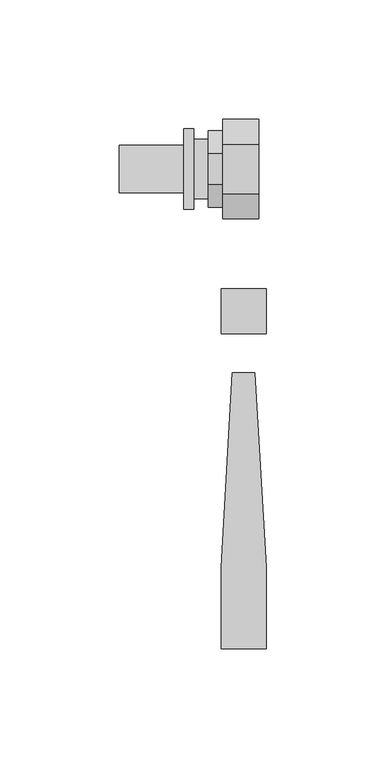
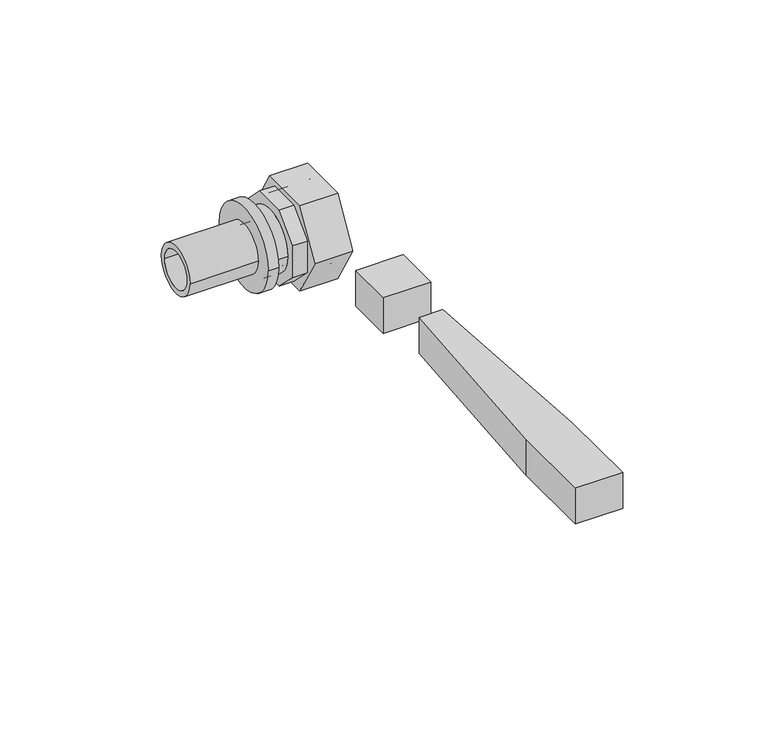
"""IFC4 building model written with IfcOpenShell, lengths in millimetres: pipe fitting geometry, RAUTITAN_LX_C.Coupling : RTI LX/PX C.C DN."""

from ifc_helpers import new_model, si_unit, point, frame, origin, origin_with_axes, origin_2d, place, context, project, spatial, polyline, circle_curve, trimmed, segment, composite_curve, outline, extrude, source, transform, mapped, element, save
from ifc_brep_helpers import plane_surface, cylinder_surface, revolved_surface, advanced_brep


def pipe_fitting_c8a19661(model_context):
    return source(origin(), model_context, "Body", "SolidModel", [
        extrude(outline(polyline([(10.3923048, -18.0), (-10.3923048, -18.0), (-20.7846097, 0.0), (-10.3923048, 18.0), (10.3923048, 18.0), (20.7846097, 0.0), (10.3923048, -18.0)]), holes=[composite_curve([segment(trimmed(circle_curve(origin_2d(), 15.0), [point((-15.0, 0.0))], [point((15.0, 0.0))], True, "CARTESIAN"), True, "CONTINUOUS"), segment(trimmed(circle_curve(origin_2d(), 15.0), [point((15.0, 0.0))], [point((-15.0, 0.0))], True, "CARTESIAN"), True, "CONTINUOUS")], self_intersect=False)]), frame((16.3, 0.0, 0.0), z_axis=(1.0, 0.0, 0.0), x_axis=(0.0, 1.0, 0.0)), (0.0, 0.0, 1.0), 15.0),
        advanced_brep(
        [(16.7, 6.627417, -16.0), (10.2, 6.627417, -16.0), (10.2, 16.0, -6.627417), (16.7, 16.0, -6.627417), (10.2, 16.0, 6.627417), (16.7, 16.0, 6.627417), (10.2, 6.627417, 16.0), (16.7, 6.627417, 16.0), (16.7, -6.627417, 16.0), (10.2, -6.627417, 16.0), (10.2, -16.0, 6.627417), (16.7, -16.0, 6.627417), (10.2, -16.0, -6.627417), (16.7, -16.0, -6.627417), (10.2, -6.627417, -16.0), (16.7, -6.627417, -16.0), (16.7, 15.0, 0.0), (16.7, -15.0, 0.0), (10.2, -12.5, 0.0), (10.2, 12.5, 0.0), (-27.0, 7.6, 0.0), (-27.0, -7.6, 0.0), (10.2, -7.6, 0.0), (10.2, 7.6, 0.0), (0.0, 9.9, 0.0), (0.0, -9.9, 0.0), (-27.0, -9.9, 0.0), (-27.0, 9.9, 0.0), (4.2, 16.8, 0.0), (4.2, -16.8, 0.0), (0.0, -16.8, 0.0), (0.0, 16.8, 0.0), (4.2, -12.5, 0.0), (4.2, 12.5, 0.0), (28.7, 15.0, 0.0), (28.7, -15.0, 0.0), (13.7, 11.1, 0.0), (13.7, -11.1, 0.0), (28.7, -11.1, 0.0), (28.7, 11.1, 0.0)],
        [
            (0, 1),
            (1, 2),
            (2, 3),
            (3, 0),
            (2, 4),
            (4, 5),
            (5, 3),
            (4, 6),
            (6, 7),
            (7, 5),
            (8, 9),
            (9, 10),
            (10, 11),
            (11, 8),
            (10, 12),
            (12, 13),
            (13, 11),
            (12, 14),
            (14, 15),
            (15, 13),
            (6, 9),
            (8, 7),
            (0, 15),
            (14, 1),
            (16, 17, circle_curve(frame((16.7, 0.0, 0.0), z_axis=(-1.0, 0.0, 0.0), x_axis=(0.0, -1.0, 0.0)), 15.0)),
            (17, 16, circle_curve(frame((16.7, 0.0, 0.0), z_axis=(-1.0, 0.0, 0.0), x_axis=(0.0, 1.0, 0.0)), 15.0)),
            (18, 19, circle_curve(frame((10.2, 0.0, 0.0), z_axis=(1.0, 0.0, 0.0), x_axis=(0.0, -1.0, 0.0)), 12.5)),
            (19, 18, circle_curve(frame((10.2, 0.0, 0.0), z_axis=(1.0, 0.0, 0.0), x_axis=(0.0, 1.0, 0.0)), 12.5)),
            (20, 21, circle_curve(frame((-27.0, 0.0, 0.0), z_axis=(-1.0, 0.0, 0.0), x_axis=(0.0, -1.0, 0.0)), 7.6)),
            (21, 22),
            (22, 23, circle_curve(frame((10.2, 0.0, 0.0), z_axis=(1.0, 0.0, 0.0), x_axis=(0.0, -1.0, 0.0)), 7.6)),
            (23, 20),
            (24, 25, circle_curve(frame((0.0, 0.0, 0.0), z_axis=(-1.0, 0.0, 0.0), x_axis=(0.0, -1.0, 0.0)), 9.9)),
            (25, 26),
            (26, 27, circle_curve(frame((-27.0, 0.0, 0.0), z_axis=(1.0, 0.0, 0.0), x_axis=(0.0, -1.0, 0.0)), 9.9)),
            (27, 24),
            (28, 29, circle_curve(frame((4.2, 0.0, 0.0), z_axis=(-1.0, 0.0, 0.0), x_axis=(0.0, -1.0, 0.0)), 16.8)),
            (29, 30),
            (30, 31, circle_curve(frame((0.0, 0.0, 0.0), z_axis=(1.0, 0.0, 0.0), x_axis=(0.0, -1.0, 0.0)), 16.8)),
            (31, 28),
            (18, 32),
            (32, 33, circle_curve(frame((4.2, 0.0, 0.0), z_axis=(1.0, 0.0, 0.0), x_axis=(0.0, -1.0, 0.0)), 12.5)),
            (33, 19),
            (34, 35, circle_curve(frame((28.7, 0.0, 0.0), z_axis=(-1.0, 0.0, 0.0), x_axis=(0.0, -1.0, 0.0)), 15.0)),
            (35, 17),
            (16, 34),
            (36, 37, circle_curve(frame((13.7, 0.0, 0.0), z_axis=(-1.0, 0.0, 0.0), x_axis=(0.0, -1.0, 0.0)), 11.1)),
            (37, 38),
            (38, 39, circle_curve(frame((28.7, 0.0, 0.0), z_axis=(1.0, 0.0, 0.0), x_axis=(0.0, -1.0, 0.0)), 11.1)),
            (39, 36),
            (22, 37),
            (36, 23),
            (21, 20, circle_curve(frame((-27.0, 0.0, 0.0), z_axis=(-1.0, 0.0, 0.0), x_axis=(0.0, 1.0, 0.0)), 7.6)),
            (23, 22, circle_curve(frame((10.2, 0.0, 0.0), z_axis=(1.0, 0.0, 0.0), x_axis=(0.0, 1.0, 0.0)), 7.6)),
            (26, 27, circle_curve(frame((-27.0, 0.0, 0.0), z_axis=(-1.0, 0.0, 0.0), x_axis=(0.0, 1.0, 0.0)), 9.9)),
            (25, 24, circle_curve(frame((0.0, 0.0, 0.0), z_axis=(-1.0, 0.0, 0.0), x_axis=(0.0, 1.0, 0.0)), 9.9)),
            (30, 31, circle_curve(frame((0.0, 0.0, 0.0), z_axis=(-1.0, 0.0, 0.0), x_axis=(0.0, 1.0, 0.0)), 16.8)),
            (29, 28, circle_curve(frame((4.2, 0.0, 0.0), z_axis=(-1.0, 0.0, 0.0), x_axis=(0.0, 1.0, 0.0)), 16.8)),
            (32, 33, circle_curve(frame((4.2, 0.0, 0.0), z_axis=(-1.0, 0.0, 0.0), x_axis=(0.0, 1.0, 0.0)), 12.5)),
            (35, 34, circle_curve(frame((28.7, 0.0, 0.0), z_axis=(-1.0, 0.0, 0.0), x_axis=(0.0, 1.0, 0.0)), 15.0)),
            (38, 39, circle_curve(frame((28.7, 0.0, 0.0), z_axis=(-1.0, 0.0, 0.0), x_axis=(0.0, 1.0, 0.0)), 11.1)),
            (37, 36, circle_curve(frame((13.7, 0.0, 0.0), z_axis=(-1.0, 0.0, 0.0), x_axis=(0.0, 1.0, 0.0)), 11.1)),
        ],
        [
            plane_surface(frame((10.2, 6.627417, -16.0), z_axis=(0.0, 0.7071067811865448, -0.7071067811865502), x_axis=(0.0, 0.7071067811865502, 0.7071067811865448))),
            plane_surface(frame((10.2, 16.0, -6.627417), z_axis=(0.0, 1.0, 0.0), x_axis=(0.0, 0.0, 1.0))),
            plane_surface(frame((10.2, 16.0, 6.627417), z_axis=(0.0, 0.7071067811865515, 0.7071067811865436), x_axis=(0.0, -0.7071067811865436, 0.7071067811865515))),
            plane_surface(frame((10.2, -6.627417, 16.0), z_axis=(0.0, -0.707106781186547, 0.7071067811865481), x_axis=(0.0, -0.7071067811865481, -0.707106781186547))),
            plane_surface(frame((10.2, -16.0, 6.627417), z_axis=(0.0, -1.0, 0.0), x_axis=(0.0, 0.0, -1.0))),
            plane_surface(frame((10.2, -16.0, -6.627417), z_axis=(0.0, -0.7071067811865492, -0.7071067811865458), x_axis=(0.0, 0.7071067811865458, -0.7071067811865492))),
            plane_surface(frame((10.2, 6.627417, 16.0), z_axis=(0.0, 0.0, 1.0), x_axis=(0.0, -1.0, 0.0))),
            plane_surface(frame((10.2, -6.627417, -16.0), z_axis=(0.0, 0.0, -1.0), x_axis=(0.0, 1.0, 0.0))),
            plane_surface(frame((16.7, -6.627417, -16.0), z_axis=(1.0, 0.0, 0.0), x_axis=(0.0, 1.0, 0.0))),
            plane_surface(frame((10.2, -5.3847763, -13.0), z_axis=(-1.0, 0.0, 0.0), x_axis=(0.0, 1.0, 0.0))),
            revolved_surface(polyline([(10.2, -7.6, 0.0), (-27.0, -7.6, 0.0)]), (0.0, 0.0, 0.0), (1.0, 0.0, 0.0)),
            cylinder_surface(frame((0.0, 0.0, 0.0), z_axis=(1.0, 0.0, 0.0), x_axis=(0.0, -1.0, 0.0)), 9.9),
            cylinder_surface(frame((0.0, 0.0, 0.0), z_axis=(1.0, 0.0, 0.0), x_axis=(0.0, -1.0, 0.0)), 16.8),
            cylinder_surface(frame((0.0, 0.0, 0.0), z_axis=(1.0, 0.0, 0.0), x_axis=(0.0, -1.0, 0.0)), 12.5),
            cylinder_surface(frame((0.0, 0.0, 0.0), z_axis=(1.0, 0.0, 0.0), x_axis=(0.0, -1.0, 0.0)), 15.0),
            revolved_surface(polyline([(28.7, -11.1, 0.0), (13.7, -11.1, 0.0)]), (0.0, 0.0, 0.0), (1.0, 0.0, 0.0)),
            revolved_surface(polyline([(13.7, -11.1, 0.0), (10.2, -7.6, 0.0)]), (0.0, 0.0, 0.0), (1.0, 0.0, 0.0)),
            revolved_surface(polyline([(10.2, 7.6, 0.0), (-27.0, 7.6, 0.0)]), (0.0, 0.0, 0.0), (1.0, 0.0, 0.0)),
            plane_surface(frame((-27.0, 0.0, 0.0), z_axis=(-1.0, 0.0, 0.0), x_axis=(0.0, 1.0, 0.0))),
            cylinder_surface(frame((0.0, 0.0, 0.0), z_axis=(1.0, 0.0, 0.0), x_axis=(0.0, 1.0, 0.0)), 9.9),
            plane_surface(frame((0.0, 0.0, 0.0), z_axis=(-1.0, 0.0, 0.0), x_axis=(0.0, 1.0, 0.0))),
            cylinder_surface(frame((0.0, 0.0, 0.0), z_axis=(1.0, 0.0, 0.0), x_axis=(0.0, 1.0, 0.0)), 16.8),
            plane_surface(frame((4.2, 0.0, 0.0), z_axis=(1.0, 0.0, 0.0), x_axis=(0.0, 1.0, 0.0))),
            cylinder_surface(frame((0.0, 0.0, 0.0), z_axis=(1.0, 0.0, 0.0), x_axis=(0.0, 1.0, 0.0)), 12.5),
            cylinder_surface(frame((0.0, 0.0, 0.0), z_axis=(1.0, 0.0, 0.0), x_axis=(0.0, 1.0, 0.0)), 15.0),
            plane_surface(frame((28.7, 0.0, 0.0), z_axis=(1.0, 0.0, 0.0), x_axis=(0.0, 1.0, 0.0))),
            revolved_surface(polyline([(28.7, 11.1, 0.0), (13.7, 11.1, 0.0)]), (0.0, 0.0, 0.0), (1.0, 0.0, 0.0)),
            revolved_surface(polyline([(13.7, 11.1, 0.0), (10.2, 7.6, 0.0)]), (0.0, 0.0, 0.0), (1.0, 0.0, 0.0)),
        ],
        [
            (0, [[1, 2, 3, 4]]),
            (1, [[-3, 5, 6, 7]]),
            (2, [[-6, 8, 9, 10]]),
            (3, [[11, 12, 13, 14]]),
            (4, [[-13, 15, 16, 17]]),
            (5, [[-16, 18, 19, 20]]),
            (6, [[-9, 21, -11, 22]]),
            (7, [[-1, 23, -19, 24]]),
            (8, [[-4, -7, -10, -22, -14, -17, -20, -23], [25, 26]]),
            (9, [[-2, -24, -18, -15, -12, -21, -8, -5], [27, 28]]),
            (10, [[29, 30, 31, 32]]),
            (11, [[33, 34, 35, 36]]),
            (12, [[37, 38, 39, 40]]),
            (13, [[-27, 41, 42, 43]]),
            (14, [[44, 45, -25, 46]]),
            (15, [[47, 48, 49, 50]]),
            (16, [[-31, 51, -47, 52]]),
            (17, [[-30, 53, -32, 54]]),
            (18, [[-35, 55], [-29, -53]]),
            (19, [[-34, 56, -36, -55]]),
            (20, [[-39, 57], [-33, -56]]),
            (21, [[-38, 58, -40, -57]]),
            (22, [[-37, -58], [-42, 59]]),
            (23, [[-41, -28, -43, -59]]),
            (24, [[60, -46, -26, -45]]),
            (25, [[-44, -60], [-49, 61]]),
            (26, [[-48, 62, -50, -61]]),
            (27, [[-51, -54, -52, -62]]),
        ],
    ),
        extrude(outline(polyline([(29.7088895, -85.3166715), (34.4177791, -166.6553807), (34.4177791, -200.6844652), (15.5822209, -200.6844652), (15.5822209, -166.6553807), (20.2911105, -85.3166715), (29.7088895, -85.3166715)])), origin_with_axes(), (0.0, 0.0, 1.0), 15.0),
        extrude(outline(polyline([(34.4177791, -50.0), (34.4177791, -68.8355582), (15.5822209, -68.8355582), (15.5822209, -50.0), (34.4177791, -50.0)])), origin_with_axes(), (0.0, 0.0, 1.0), 15.0),
    ])


if __name__ == "__main__":
    model = new_model("IFC4")
    model_context = context("Model", 3, world=origin())
    ifc_project = project(units=[si_unit("LENGTHUNIT", "METRE", prefix="MILLI")], contexts=[model_context])
    site = spatial("IfcSite", under=ifc_project)
    building = spatial("IfcBuilding", under=site)
    placement = place(None, origin())
    pipe_fitting_shape = pipe_fitting_c8a19661(model_context)
    element("IfcPipeFitting", 1, ObjectType="RAUTITAN_LX_C.Coupling : RTI LX/PX C.C DN", at=placement, inside=building, context=model_context, shape_type="MappedRepresentation", body=[
        mapped(pipe_fitting_shape, transform((0.0, 0.0, 0.0), x_axis=(1.0, 0.0, 0.0), y_axis=(0.0, 1.0, 0.0), z_axis=(0.0, 0.0, 1.0))),
    ])
    save(model, "model.ifc")
